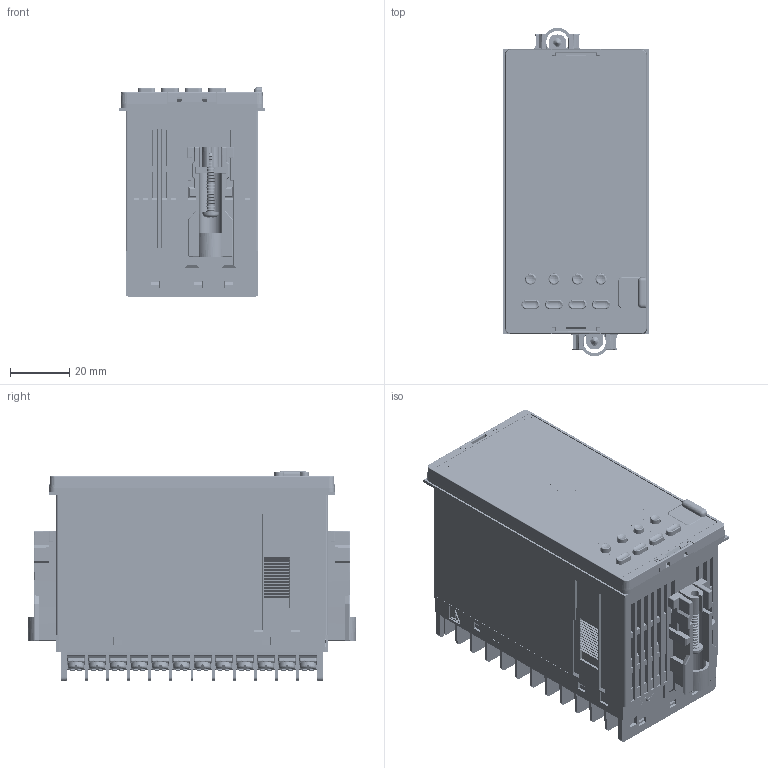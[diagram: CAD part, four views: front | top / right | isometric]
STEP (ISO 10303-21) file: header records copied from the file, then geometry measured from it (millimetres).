
FILE_DESCRIPTION (( 'STEP AP203' ), '1' );
FILE_NAME ('GZ400_WEB.STEP', '2020-06-12T02:26:28', ( '' ), ( '' ), 'SwSTEP 2.0', 'SolidWorks 2018', '' );
FILE_SCHEMA (( 'CONFIG_CONTROL_DESIGN' ));
Length unit declared in the file: millimetre
Products named in the file (1): GZ400_WEB
Bounding box: 49.2 x 110.45 x 70.6 mm (x, y, z)
Volume: 262458.8 mm3; surface area: 62659 mm2
Topology: 7 solids, 21 shells, 15876 faces, 44489 edges, 29044 vertices
Faces by surface type: plane 9919, cylinder 3455, bspline 1984, sphere 196, cone 180, torus 142
Entity records: 552972 total; most frequent: CARTESIAN_POINT 153701, ORIENTED_EDGE 88634, DIRECTION 74908, EDGE_CURVE 44317, LINE 32624, VECTOR 32624, VERTEX_POINT 29044, AXIS2_PLACEMENT_3D 21142
